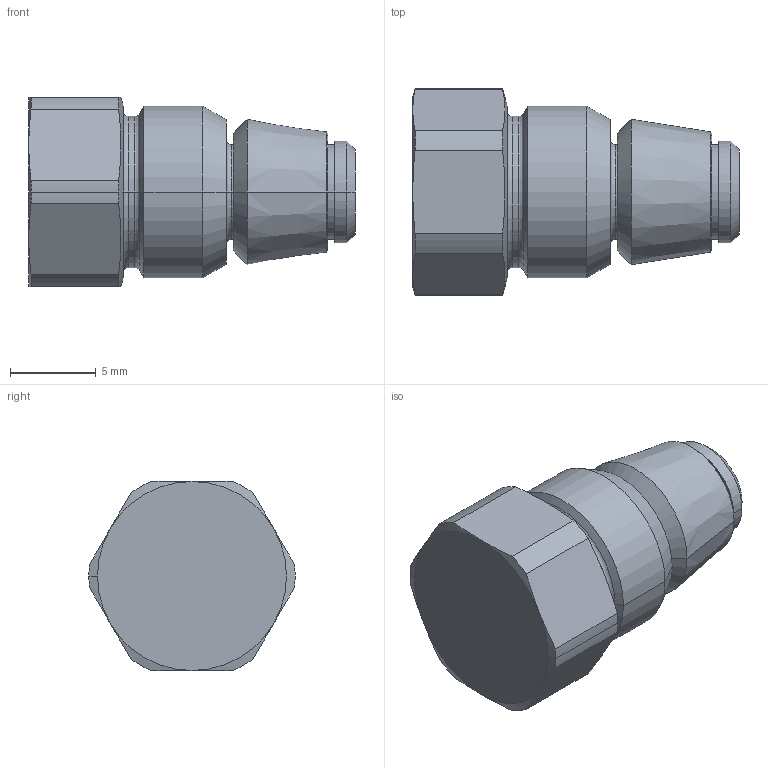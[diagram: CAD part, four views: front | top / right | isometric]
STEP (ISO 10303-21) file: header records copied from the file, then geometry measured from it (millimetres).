
FILE_DESCRIPTION (( 'STEP AP203' ), '1' );
FILE_NAME ('2260-00000087.STEP', '2024-05-15T06:58:17', ( '' ), ( '' ), 'SwSTEP 2.0', 'SolidWorks 2019', '' );
FILE_SCHEMA (( 'CONFIG_CONTROL_DESIGN' ));
Length unit declared in the file: millimetre
Products named in the file (3): 2260-00000087_SCHRAUBE,VERS.6KT_2611-M10x1-S..______ZG~01; 404-23034-1_DICHT-U.KLEMMRING_MS_F.SSV~-c; 2260-00000087
Assembly tree (2 placements, depth 2):
  2260-00000087
    2260-00000087_SCHRAUBE,VERS.6KT_2611-M10x1-S..______ZG~01
    404-23034-1_DICHT-U.KLEMMRING_MS_F.SSV~-c
Bounding box: 19 x 12 x 11 mm (x, y, z)
Volume: 1274.5 mm3; surface area: 980.8 mm2
Topology: 2 solids, 2 shells, 61 faces, 133 edges, 79 vertices
Faces by surface type: cone 25, cylinder 17, plane 13, torus 6
Entity records: 2003 total; most frequent: CARTESIAN_POINT 340, DIRECTION 320, ORIENTED_EDGE 266, AXIS2_PLACEMENT_3D 139, EDGE_CURVE 133, VERTEX_POINT 79, CIRCLE 73, EDGE_LOOP 66
